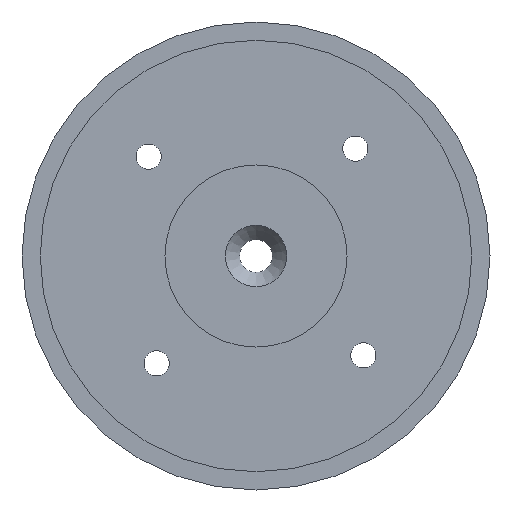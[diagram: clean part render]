
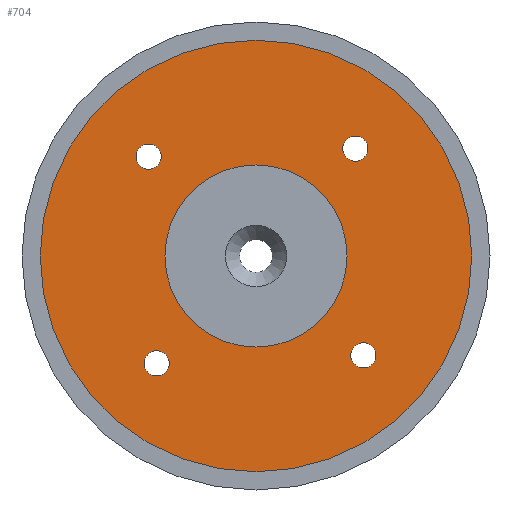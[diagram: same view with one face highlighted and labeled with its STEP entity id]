
A CAD part, front view. The second image highlights one B-rep face of the part: STEP entity #704.
In plain terms, the highlighted planar face has unit normal (0, -1, 0).
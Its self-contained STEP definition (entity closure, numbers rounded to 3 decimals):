
#28=FACE_BOUND('',#122,.T.);
#29=FACE_BOUND('',#123,.T.);
#30=FACE_BOUND('',#124,.T.);
#31=FACE_BOUND('',#125,.T.);
#32=FACE_BOUND('',#126,.T.);
#42=PLANE('',#794);
#66=FACE_OUTER_BOUND('',#121,.T.);
#121=EDGE_LOOP('',(#542));
#122=EDGE_LOOP('',(#543));
#123=EDGE_LOOP('',(#544));
#124=EDGE_LOOP('',(#545));
#125=EDGE_LOOP('',(#546));
#126=EDGE_LOOP('',(#547));
#274=CIRCLE('',#752,29.625);
#307=CIRCLE('',#795,1.727);
#308=CIRCLE('',#796,1.727);
#309=CIRCLE('',#797,1.727);
#310=CIRCLE('',#798,1.727);
#311=CIRCLE('',#799,12.5);
#315=VERTEX_POINT('',#1064);
#372=VERTEX_POINT('',#1190);
#373=VERTEX_POINT('',#1192);
#374=VERTEX_POINT('',#1194);
#375=VERTEX_POINT('',#1196);
#376=VERTEX_POINT('',#1198);
#380=EDGE_CURVE('',#315,#315,#274,.T.);
#439=EDGE_CURVE('',#372,#372,#307,.T.);
#440=EDGE_CURVE('',#373,#373,#308,.T.);
#441=EDGE_CURVE('',#374,#374,#309,.T.);
#442=EDGE_CURVE('',#375,#375,#310,.T.);
#443=EDGE_CURVE('',#376,#376,#311,.T.);
#542=ORIENTED_EDGE('',*,*,#380,.T.);
#543=ORIENTED_EDGE('',*,*,#439,.T.);
#544=ORIENTED_EDGE('',*,*,#440,.T.);
#545=ORIENTED_EDGE('',*,*,#441,.T.);
#546=ORIENTED_EDGE('',*,*,#442,.T.);
#547=ORIENTED_EDGE('',*,*,#443,.F.);
#704=ADVANCED_FACE('',(#66,#28,#29,#30,#31,#32),#42,.F.);
#752=AXIS2_PLACEMENT_3D('',#1065,#839,#840);
#794=AXIS2_PLACEMENT_3D('',#1189,#949,#950);
#795=AXIS2_PLACEMENT_3D('',#1191,#951,#952);
#796=AXIS2_PLACEMENT_3D('',#1193,#953,#954);
#797=AXIS2_PLACEMENT_3D('',#1195,#955,#956);
#798=AXIS2_PLACEMENT_3D('',#1197,#957,#958);
#799=AXIS2_PLACEMENT_3D('',#1199,#959,#960);
#839=DIRECTION('center_axis',(0.,-1.,0.));
#840=DIRECTION('ref_axis',(1.,0.,0.));
#949=DIRECTION('center_axis',(0.,1.,0.));
#950=DIRECTION('ref_axis',(0.,0.,1.));
#951=DIRECTION('center_axis',(0.,1.,0.));
#952=DIRECTION('ref_axis',(0.,0.,1.));
#953=DIRECTION('center_axis',(0.,1.,0.));
#954=DIRECTION('ref_axis',(0.,0.,1.));
#955=DIRECTION('center_axis',(0.,1.,0.));
#956=DIRECTION('ref_axis',(0.,0.,1.));
#957=DIRECTION('center_axis',(0.,1.,0.));
#958=DIRECTION('ref_axis',(0.,0.,1.));
#959=DIRECTION('center_axis',(0.,-1.,0.));
#960=DIRECTION('ref_axis',(0.,0.,-1.));
#1064=CARTESIAN_POINT('',(-29.625,0.,0.));
#1065=CARTESIAN_POINT('Origin',(0.,0.,0.));
#1189=CARTESIAN_POINT('Origin',(0.,0.,0.));
#1190=CARTESIAN_POINT('',(14.742,0.,-11.906));
#1191=CARTESIAN_POINT('Origin',(14.742,0.,-13.633));
#1192=CARTESIAN_POINT('',(-13.633,0.,-13.015));
#1193=CARTESIAN_POINT('Origin',(-13.633,0.,-14.742));
#1194=CARTESIAN_POINT('',(-14.742,0.,15.36));
#1195=CARTESIAN_POINT('Origin',(-14.742,0.,13.633));
#1196=CARTESIAN_POINT('',(13.633,0.,16.469));
#1197=CARTESIAN_POINT('Origin',(13.633,0.,14.742));
#1198=CARTESIAN_POINT('',(0.,0.,12.5));
#1199=CARTESIAN_POINT('Origin',(0.,0.,0.));
